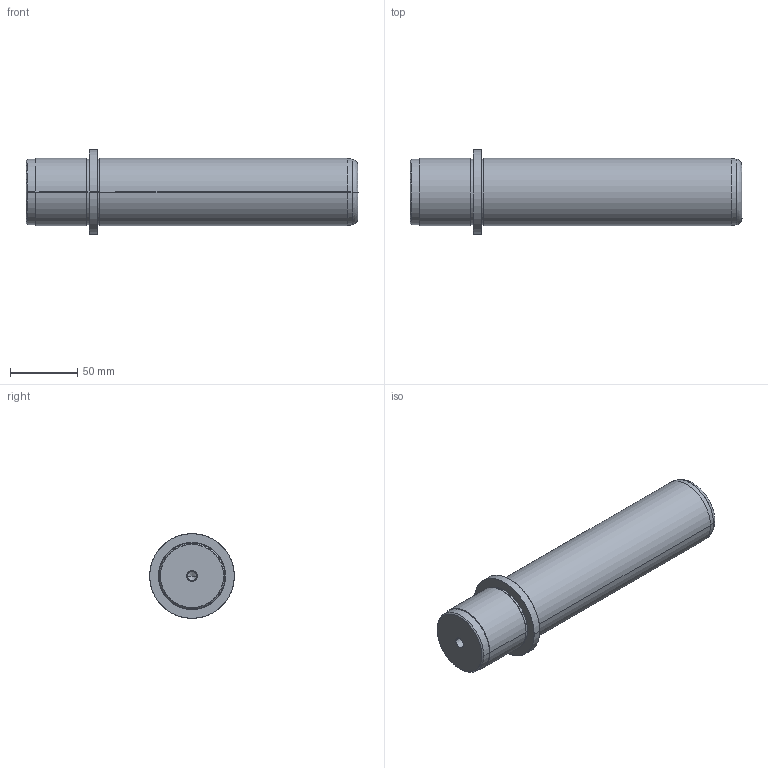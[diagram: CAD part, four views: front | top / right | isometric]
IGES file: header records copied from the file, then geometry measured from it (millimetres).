
Start section: SolidWorks IGES FILE using analytic representation for surfaces
Global section: file name: D:\zzzzz\Delta\D06\50\D06 - 50x200x47.IGS; native system: SolidWorks 2004 by SolidWorks Corporation; preprocessor: Version 5.3; author: Hkn; date: 080327.151506; units: millimetre
Bounding box: 247 x 63 x 63 mm (x, y, z)
Surface area: 46225.9 mm2 (no closed solid volume)
Topology: 0 solids, 0 shells, 39 faces, 1080 edges, 1076 vertices
Faces by surface type: revolution 28, bspline 11
